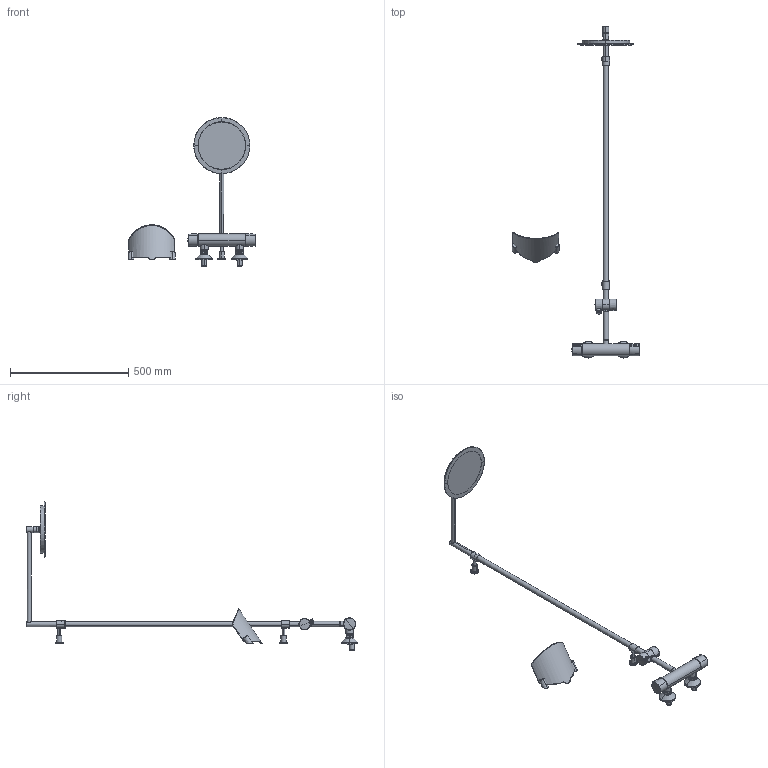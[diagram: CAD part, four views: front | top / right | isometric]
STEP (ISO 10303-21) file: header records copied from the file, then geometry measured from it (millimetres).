
FILE_DESCRIPTION (( 'STEP AP203' ), '1' );
FILE_NAME ('2891U.STEP', '2018-07-11T11:17:51', ( '' ), ( '' ), 'SwSTEP 2.0', 'SolidWorks 2016', '' );
FILE_SCHEMA (( 'CONFIG_CONTROL_DESIGN' ));
Products named in the file (1): 2891U
Bounding box: 539.83 x 1405 x 631 mm (x, y, z)
Volume: 2445144.9 mm3; surface area: 455783.1 mm2
Topology: 25 solids, 26 shells, 772 faces, 1729 edges, 1034 vertices
Faces by surface type: cylinder 203, plane 180, bspline 149, cone 114, torus 108, sphere 18
Entity records: 34103 total; most frequent: CARTESIAN_POINT 18093, ORIENTED_EDGE 3426, DIRECTION 3202, EDGE_CURVE 1713, AXIS2_PLACEMENT_3D 1375, VERTEX_POINT 1032, EDGE_LOOP 815, FACE_OUTER_BOUND 772
